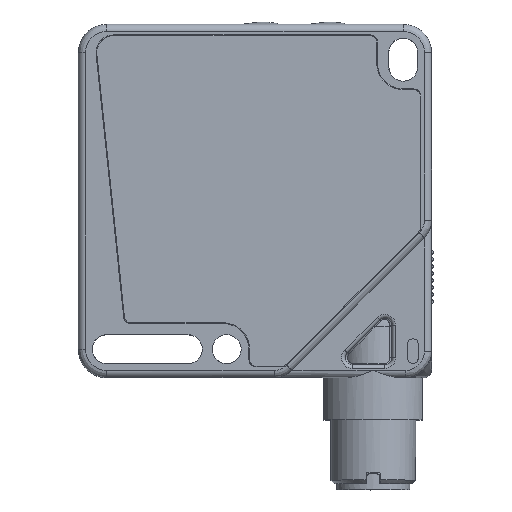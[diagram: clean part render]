
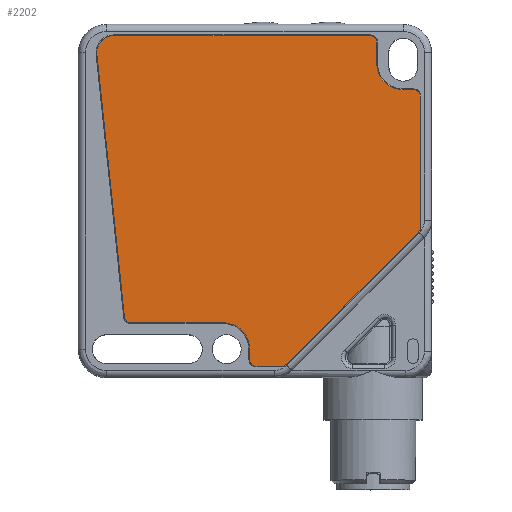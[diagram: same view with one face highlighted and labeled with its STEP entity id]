
A CAD part, top view. The second image highlights one B-rep face of the part: STEP entity #2202.
In plain terms, the highlighted planar face has unit normal (0, 0, 1).
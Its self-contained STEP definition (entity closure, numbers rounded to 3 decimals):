
#748=FACE_OUTER_BOUND('',#2815,.T.);
#1158=PLANE('',#6868);
#1432=LINE('',#10063,#1831);
#1435=LINE('',#10069,#1834);
#1437=LINE('',#10077,#1836);
#1439=LINE('',#10081,#1838);
#1442=LINE('',#10089,#1841);
#1445=LINE('',#10097,#1844);
#1448=LINE('',#10105,#1847);
#1450=LINE('',#10111,#1849);
#1452=LINE('',#10115,#1851);
#1831=VECTOR('',#7887,1.);
#1834=VECTOR('',#7892,1.);
#1836=VECTOR('',#7904,1.);
#1838=VECTOR('',#7908,1.);
#1841=VECTOR('',#7917,1.);
#1844=VECTOR('',#7926,1.);
#1847=VECTOR('',#7935,1.);
#1849=VECTOR('',#7943,1.);
#1851=VECTOR('',#7947,1.);
#2202=ADVANCED_FACE('F7474',(#748),#1158,.T.);
#2815=EDGE_LOOP('',(#3823,#3824,#3825,#3826,#3827,#3828,#3829,#3830,#3831,
#3832,#3833,#3834,#3835,#3836,#3837,#3838,#3839,#3840));
#3823=ORIENTED_EDGE('',*,*,#5831,.T.);
#3824=ORIENTED_EDGE('',*,*,#5807,.T.);
#3825=ORIENTED_EDGE('',*,*,#5808,.T.);
#3826=ORIENTED_EDGE('',*,*,#5804,.T.);
#3827=ORIENTED_EDGE('',*,*,#5810,.T.);
#3828=ORIENTED_EDGE('',*,*,#5811,.T.);
#3829=ORIENTED_EDGE('',*,*,#5798,.T.);
#3830=ORIENTED_EDGE('',*,*,#5813,.T.);
#3831=ORIENTED_EDGE('',*,*,#5815,.T.);
#3832=ORIENTED_EDGE('',*,*,#5817,.T.);
#3833=ORIENTED_EDGE('',*,*,#5819,.T.);
#3834=ORIENTED_EDGE('',*,*,#5821,.T.);
#3835=ORIENTED_EDGE('',*,*,#5823,.T.);
#3836=ORIENTED_EDGE('',*,*,#5825,.T.);
#3837=ORIENTED_EDGE('',*,*,#5827,.T.);
#3838=ORIENTED_EDGE('',*,*,#5828,.T.);
#3839=ORIENTED_EDGE('',*,*,#5801,.T.);
#3840=ORIENTED_EDGE('',*,*,#5830,.T.);
#5109=VERTEX_POINT('',#10048);
#5110=VERTEX_POINT('',#10050);
#5111=VERTEX_POINT('',#10054);
#5112=VERTEX_POINT('',#10056);
#5113=VERTEX_POINT('',#10060);
#5114=VERTEX_POINT('',#10062);
#5115=VERTEX_POINT('',#10066);
#5116=VERTEX_POINT('',#10068);
#5117=VERTEX_POINT('',#10074);
#5118=VERTEX_POINT('',#10080);
#5119=VERTEX_POINT('',#10084);
#5120=VERTEX_POINT('',#10088);
#5121=VERTEX_POINT('',#10092);
#5122=VERTEX_POINT('',#10096);
#5123=VERTEX_POINT('',#10100);
#5124=VERTEX_POINT('',#10104);
#5125=VERTEX_POINT('',#10108);
#5126=VERTEX_POINT('',#10114);
#5798=EDGE_CURVE('E163163',#5109,#5110,#6427,.T.);
#5801=EDGE_CURVE('E160160',#5111,#5112,#6428,.T.);
#5804=EDGE_CURVE('E182182',#5113,#5114,#1432,.T.);
#5807=EDGE_CURVE('E188188',#5115,#5116,#1435,.T.);
#5808=EDGE_CURVE('E184184',#5116,#5113,#6429,.T.);
#5810=EDGE_CURVE('E180180',#5114,#5117,#6430,.T.);
#5811=EDGE_CURVE('E153153',#5117,#5109,#1437,.T.);
#5813=EDGE_CURVE('E175175',#5110,#5118,#1439,.T.);
#5815=EDGE_CURVE('E173173',#5118,#5119,#6431,.T.);
#5817=EDGE_CURVE('E154154',#5119,#5120,#1442,.T.);
#5819=EDGE_CURVE('E172172',#5120,#5121,#6432,.T.);
#5821=EDGE_CURVE('E170170',#5121,#5122,#1445,.T.);
#5823=EDGE_CURVE('E168168',#5122,#5123,#6433,.T.);
#5825=EDGE_CURVE('E157157',#5123,#5124,#1448,.T.);
#5827=EDGE_CURVE('E167167',#5124,#5125,#6434,.T.);
#5828=EDGE_CURVE('E165165',#5125,#5111,#1450,.T.);
#5830=EDGE_CURVE('E189189',#5112,#5126,#1452,.T.);
#5831=EDGE_CURVE('E186186',#5126,#5115,#6435,.T.);
#6427=CIRCLE('',#6841,3.75);
#6428=CIRCLE('',#6843,3.75);
#6429=CIRCLE('',#6847,2.4);
#6430=CIRCLE('',#6849,0.9);
#6431=CIRCLE('',#6853,0.9);
#6432=CIRCLE('',#6856,0.9);
#6433=CIRCLE('',#6859,0.9);
#6434=CIRCLE('',#6862,0.9);
#6435=CIRCLE('',#6866,0.9);
#6841=AXIS2_PLACEMENT_3D('',#10051,#7875,#7876);
#6843=AXIS2_PLACEMENT_3D('',#10057,#7881,#7882);
#6847=AXIS2_PLACEMENT_3D('',#10071,#7895,#7896);
#6849=AXIS2_PLACEMENT_3D('',#10075,#7900,#7901);
#6853=AXIS2_PLACEMENT_3D('',#10085,#7912,#7913);
#6856=AXIS2_PLACEMENT_3D('',#10093,#7921,#7922);
#6859=AXIS2_PLACEMENT_3D('',#10101,#7930,#7931);
#6862=AXIS2_PLACEMENT_3D('',#10109,#7939,#7940);
#6866=AXIS2_PLACEMENT_3D('',#10117,#7950,#7951);
#6868=AXIS2_PLACEMENT_3D('',#10119,#7954,#7955);
#7875=DIRECTION('',(0.,0.,-1.));
#7876=DIRECTION('',(0.,-1.,0.));
#7881=DIRECTION('',(0.,0.,-1.));
#7882=DIRECTION('',(0.,-1.,0.));
#7887=DIRECTION('',(0.104,-0.995,0.));
#7892=DIRECTION('',(-1.,0.,0.));
#7895=DIRECTION('',(0.,0.,1.));
#7896=DIRECTION('',(0.,1.,0.));
#7900=DIRECTION('',(0.,0.,1.));
#7901=DIRECTION('',(0.,1.,0.));
#7904=DIRECTION('',(1.,0.,0.));
#7908=DIRECTION('',(0.,-1.,0.));
#7912=DIRECTION('',(0.,0.,1.));
#7913=DIRECTION('',(0.,1.,0.));
#7917=DIRECTION('',(1.,0.,0.));
#7921=DIRECTION('',(0.,0.,1.));
#7922=DIRECTION('',(0.,1.,0.));
#7926=DIRECTION('',(0.707,0.707,0.));
#7930=DIRECTION('',(0.,0.,1.));
#7931=DIRECTION('',(0.,1.,0.));
#7935=DIRECTION('',(0.,1.,0.));
#7939=DIRECTION('',(0.,0.,1.));
#7940=DIRECTION('',(0.,1.,0.));
#7943=DIRECTION('',(-1.,0.,0.));
#7947=DIRECTION('',(0.,1.,0.));
#7950=DIRECTION('',(0.,0.,1.));
#7951=DIRECTION('',(0.,1.,0.));
#7954=DIRECTION('',(0.,0.,1.));
#7955=DIRECTION('',(-1.,0.,0.));
#10048=CARTESIAN_POINT('',(-15.562,-70.25,9.227));
#10050=CARTESIAN_POINT('',(-11.812,-74.,9.227));
#10051=CARTESIAN_POINT('',(-15.562,-74.,9.227));
#10054=CARTESIAN_POINT('',(9.938,-37.25,9.227));
#10056=CARTESIAN_POINT('',(6.188,-33.5,9.227));
#10057=CARTESIAN_POINT('',(9.938,-33.5,9.227));
#10060=CARTESIAN_POINT('',(-33.446,-32.252,9.227));
#10062=CARTESIAN_POINT('',(-29.54,-69.444,9.227));
#10063=CARTESIAN_POINT('',(-31.493,-50.848,9.227));
#10066=CARTESIAN_POINT('',(5.288,-29.6,9.227));
#10068=CARTESIAN_POINT('',(-31.056,-29.6,9.227));
#10069=CARTESIAN_POINT('',(-12.884,-29.6,9.227));
#10071=CARTESIAN_POINT('',(-31.06,-32.,9.227));
#10074=CARTESIAN_POINT('',(-28.645,-70.25,9.227));
#10075=CARTESIAN_POINT('',(-28.645,-69.35,9.227));
#10077=CARTESIAN_POINT('',(-22.103,-70.25,9.227));
#10080=CARTESIAN_POINT('',(-11.812,-75.5,9.227));
#10081=CARTESIAN_POINT('',(-11.812,-74.75,9.227));
#10084=CARTESIAN_POINT('',(-10.912,-76.4,9.227));
#10085=CARTESIAN_POINT('',(-10.912,-75.5,9.227));
#10088=CARTESIAN_POINT('',(-7.219,-76.4,9.227));
#10089=CARTESIAN_POINT('',(-9.065,-76.4,9.227));
#10092=CARTESIAN_POINT('',(-6.582,-76.136,9.227));
#10093=CARTESIAN_POINT('',(-7.219,-75.5,9.227));
#10096=CARTESIAN_POINT('',(12.074,-57.48,9.227));
#10097=CARTESIAN_POINT('',(2.746,-66.808,9.227));
#10100=CARTESIAN_POINT('',(12.338,-56.843,9.227));
#10101=CARTESIAN_POINT('',(11.438,-56.843,9.227));
#10104=CARTESIAN_POINT('',(12.338,-38.15,9.227));
#10105=CARTESIAN_POINT('',(12.338,-47.497,9.227));
#10108=CARTESIAN_POINT('',(11.438,-37.25,9.227));
#10109=CARTESIAN_POINT('',(11.438,-38.15,9.227));
#10111=CARTESIAN_POINT('',(10.688,-37.25,9.227));
#10114=CARTESIAN_POINT('',(6.188,-30.5,9.227));
#10115=CARTESIAN_POINT('',(6.188,-32.,9.227));
#10117=CARTESIAN_POINT('',(5.288,-30.5,9.227));
#10119=CARTESIAN_POINT('',(-34.81,-77.775,9.227));
